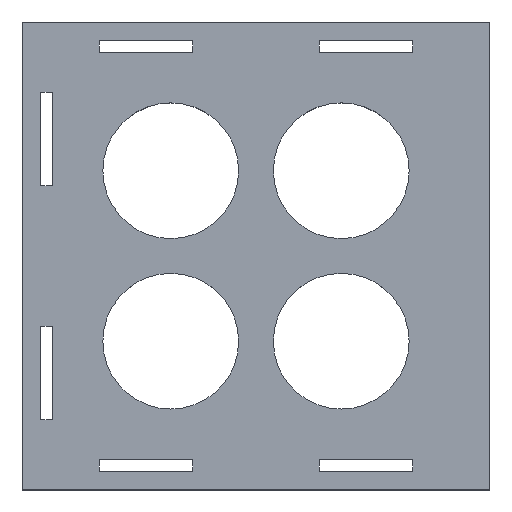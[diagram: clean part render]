
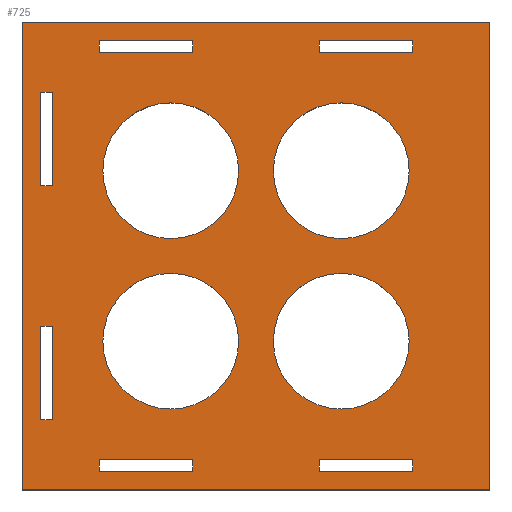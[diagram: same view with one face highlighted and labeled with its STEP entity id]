
A CAD part, top view. The second image highlights one B-rep face of the part: STEP entity #725.
In plain terms, the highlighted planar face has unit normal (0, 0, 1).
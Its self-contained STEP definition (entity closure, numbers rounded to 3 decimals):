
#15=FACE_BOUND('',#114,.T.);
#16=FACE_BOUND('',#115,.T.);
#17=FACE_BOUND('',#116,.T.);
#18=FACE_BOUND('',#117,.T.);
#19=FACE_BOUND('',#118,.T.);
#20=FACE_BOUND('',#119,.T.);
#21=FACE_BOUND('',#120,.T.);
#22=FACE_BOUND('',#121,.T.);
#23=FACE_BOUND('',#122,.T.);
#24=FACE_BOUND('',#123,.T.);
#35=CIRCLE('',#772,14.5);
#37=CIRCLE('',#775,14.5);
#39=CIRCLE('',#778,14.5);
#41=CIRCLE('',#781,14.5);
#79=FACE_OUTER_BOUND('',#113,.T.);
#113=EDGE_LOOP('',(#599,#600,#601,#602));
#114=EDGE_LOOP('',(#603));
#115=EDGE_LOOP('',(#604));
#116=EDGE_LOOP('',(#605));
#117=EDGE_LOOP('',(#606));
#118=EDGE_LOOP('',(#607,#608,#609,#610));
#119=EDGE_LOOP('',(#611,#612,#613,#614));
#120=EDGE_LOOP('',(#615,#616,#617,#618));
#121=EDGE_LOOP('',(#619,#620,#621,#622));
#122=EDGE_LOOP('',(#623,#624,#625,#626));
#123=EDGE_LOOP('',(#627,#628,#629,#630));
#137=LINE('',#971,#225);
#140=LINE('',#977,#228);
#143=LINE('',#983,#231);
#146=LINE('',#987,#234);
#149=LINE('',#995,#237);
#152=LINE('',#1001,#240);
#155=LINE('',#1007,#243);
#158=LINE('',#1011,#246);
#161=LINE('',#1019,#249);
#164=LINE('',#1025,#252);
#167=LINE('',#1031,#255);
#170=LINE('',#1035,#258);
#173=LINE('',#1043,#261);
#176=LINE('',#1049,#264);
#179=LINE('',#1055,#267);
#182=LINE('',#1059,#270);
#185=LINE('',#1067,#273);
#188=LINE('',#1073,#276);
#191=LINE('',#1079,#279);
#194=LINE('',#1083,#282);
#197=LINE('',#1091,#285);
#200=LINE('',#1097,#288);
#203=LINE('',#1103,#291);
#206=LINE('',#1107,#294);
#213=LINE('',#1139,#301);
#216=LINE('',#1145,#304);
#219=LINE('',#1151,#307);
#222=LINE('',#1155,#310);
#225=VECTOR('',#795,10.);
#228=VECTOR('',#800,10.);
#231=VECTOR('',#805,10.);
#234=VECTOR('',#810,10.);
#237=VECTOR('',#815,10.);
#240=VECTOR('',#820,10.);
#243=VECTOR('',#825,10.);
#246=VECTOR('',#830,10.);
#249=VECTOR('',#835,10.);
#252=VECTOR('',#840,10.);
#255=VECTOR('',#845,10.);
#258=VECTOR('',#850,10.);
#261=VECTOR('',#855,10.);
#264=VECTOR('',#860,10.);
#267=VECTOR('',#865,10.);
#270=VECTOR('',#870,10.);
#273=VECTOR('',#875,10.);
#276=VECTOR('',#880,10.);
#279=VECTOR('',#885,10.);
#282=VECTOR('',#890,10.);
#285=VECTOR('',#895,10.);
#288=VECTOR('',#900,10.);
#291=VECTOR('',#905,10.);
#294=VECTOR('',#910,10.);
#301=VECTOR('',#943,10.);
#304=VECTOR('',#948,10.);
#307=VECTOR('',#953,10.);
#310=VECTOR('',#958,10.);
#313=VERTEX_POINT('',#968);
#314=VERTEX_POINT('',#970);
#316=VERTEX_POINT('',#976);
#318=VERTEX_POINT('',#982);
#321=VERTEX_POINT('',#992);
#322=VERTEX_POINT('',#994);
#324=VERTEX_POINT('',#1000);
#326=VERTEX_POINT('',#1006);
#329=VERTEX_POINT('',#1016);
#330=VERTEX_POINT('',#1018);
#332=VERTEX_POINT('',#1024);
#334=VERTEX_POINT('',#1030);
#337=VERTEX_POINT('',#1040);
#338=VERTEX_POINT('',#1042);
#340=VERTEX_POINT('',#1048);
#342=VERTEX_POINT('',#1054);
#345=VERTEX_POINT('',#1064);
#346=VERTEX_POINT('',#1066);
#348=VERTEX_POINT('',#1072);
#350=VERTEX_POINT('',#1078);
#353=VERTEX_POINT('',#1088);
#354=VERTEX_POINT('',#1090);
#356=VERTEX_POINT('',#1096);
#358=VERTEX_POINT('',#1102);
#359=VERTEX_POINT('',#1109);
#361=VERTEX_POINT('',#1115);
#363=VERTEX_POINT('',#1121);
#365=VERTEX_POINT('',#1127);
#369=VERTEX_POINT('',#1136);
#370=VERTEX_POINT('',#1138);
#372=VERTEX_POINT('',#1144);
#374=VERTEX_POINT('',#1150);
#377=EDGE_CURVE('',#314,#313,#137,.T.);
#380=EDGE_CURVE('',#316,#314,#140,.T.);
#383=EDGE_CURVE('',#318,#316,#143,.T.);
#386=EDGE_CURVE('',#313,#318,#146,.T.);
#389=EDGE_CURVE('',#322,#321,#149,.T.);
#392=EDGE_CURVE('',#324,#322,#152,.T.);
#395=EDGE_CURVE('',#326,#324,#155,.T.);
#398=EDGE_CURVE('',#321,#326,#158,.T.);
#401=EDGE_CURVE('',#330,#329,#161,.T.);
#404=EDGE_CURVE('',#332,#330,#164,.T.);
#407=EDGE_CURVE('',#334,#332,#167,.T.);
#410=EDGE_CURVE('',#329,#334,#170,.T.);
#413=EDGE_CURVE('',#338,#337,#173,.T.);
#416=EDGE_CURVE('',#340,#338,#176,.T.);
#419=EDGE_CURVE('',#342,#340,#179,.T.);
#422=EDGE_CURVE('',#337,#342,#182,.T.);
#425=EDGE_CURVE('',#346,#345,#185,.T.);
#428=EDGE_CURVE('',#348,#346,#188,.T.);
#431=EDGE_CURVE('',#350,#348,#191,.T.);
#434=EDGE_CURVE('',#345,#350,#194,.T.);
#437=EDGE_CURVE('',#354,#353,#197,.T.);
#440=EDGE_CURVE('',#356,#354,#200,.T.);
#443=EDGE_CURVE('',#358,#356,#203,.T.);
#446=EDGE_CURVE('',#353,#358,#206,.T.);
#447=EDGE_CURVE('',#359,#359,#35,.T.);
#450=EDGE_CURVE('',#361,#361,#37,.T.);
#453=EDGE_CURVE('',#363,#363,#39,.T.);
#456=EDGE_CURVE('',#365,#365,#41,.T.);
#461=EDGE_CURVE('',#370,#369,#213,.T.);
#464=EDGE_CURVE('',#372,#370,#216,.T.);
#467=EDGE_CURVE('',#374,#372,#219,.T.);
#470=EDGE_CURVE('',#369,#374,#222,.T.);
#599=ORIENTED_EDGE('',*,*,#470,.T.);
#600=ORIENTED_EDGE('',*,*,#467,.T.);
#601=ORIENTED_EDGE('',*,*,#464,.T.);
#602=ORIENTED_EDGE('',*,*,#461,.T.);
#603=ORIENTED_EDGE('',*,*,#456,.T.);
#604=ORIENTED_EDGE('',*,*,#453,.T.);
#605=ORIENTED_EDGE('',*,*,#450,.T.);
#606=ORIENTED_EDGE('',*,*,#447,.T.);
#607=ORIENTED_EDGE('',*,*,#446,.T.);
#608=ORIENTED_EDGE('',*,*,#443,.T.);
#609=ORIENTED_EDGE('',*,*,#440,.T.);
#610=ORIENTED_EDGE('',*,*,#437,.T.);
#611=ORIENTED_EDGE('',*,*,#434,.T.);
#612=ORIENTED_EDGE('',*,*,#431,.T.);
#613=ORIENTED_EDGE('',*,*,#428,.T.);
#614=ORIENTED_EDGE('',*,*,#425,.T.);
#615=ORIENTED_EDGE('',*,*,#422,.T.);
#616=ORIENTED_EDGE('',*,*,#419,.T.);
#617=ORIENTED_EDGE('',*,*,#416,.T.);
#618=ORIENTED_EDGE('',*,*,#413,.T.);
#619=ORIENTED_EDGE('',*,*,#410,.T.);
#620=ORIENTED_EDGE('',*,*,#407,.T.);
#621=ORIENTED_EDGE('',*,*,#404,.T.);
#622=ORIENTED_EDGE('',*,*,#401,.T.);
#623=ORIENTED_EDGE('',*,*,#398,.T.);
#624=ORIENTED_EDGE('',*,*,#395,.T.);
#625=ORIENTED_EDGE('',*,*,#392,.T.);
#626=ORIENTED_EDGE('',*,*,#389,.T.);
#627=ORIENTED_EDGE('',*,*,#386,.T.);
#628=ORIENTED_EDGE('',*,*,#383,.T.);
#629=ORIENTED_EDGE('',*,*,#380,.T.);
#630=ORIENTED_EDGE('',*,*,#377,.T.);
#691=PLANE('',#787);
#725=ADVANCED_FACE('',(#79,#15,#16,#17,#18,#19,#20,#21,#22,#23,#24),#691,
 .T.);
#772=AXIS2_PLACEMENT_3D('',#1110,#913,#914);
#775=AXIS2_PLACEMENT_3D('',#1116,#920,#921);
#778=AXIS2_PLACEMENT_3D('',#1122,#927,#928);
#781=AXIS2_PLACEMENT_3D('',#1128,#934,#935);
#787=AXIS2_PLACEMENT_3D('',#1156,#959,#960);
#795=DIRECTION('',(1.,0.,0.));
#800=DIRECTION('',(0.,1.,0.));
#805=DIRECTION('',(-1.,0.,0.));
#810=DIRECTION('',(0.,-1.,0.));
#815=DIRECTION('',(0.,-1.,0.));
#820=DIRECTION('',(1.,0.,0.));
#825=DIRECTION('',(0.,1.,0.));
#830=DIRECTION('',(-1.,0.,0.));
#835=DIRECTION('',(0.,1.,0.));
#840=DIRECTION('',(-1.,0.,0.));
#845=DIRECTION('',(0.,-1.,0.));
#850=DIRECTION('',(1.,0.,0.));
#855=DIRECTION('',(0.,1.,0.));
#860=DIRECTION('',(-1.,0.,0.));
#865=DIRECTION('',(0.,-1.,0.));
#870=DIRECTION('',(1.,0.,0.));
#875=DIRECTION('',(0.,1.,0.));
#880=DIRECTION('',(-1.,0.,0.));
#885=DIRECTION('',(0.,-1.,0.));
#890=DIRECTION('',(1.,0.,0.));
#895=DIRECTION('',(-1.,0.,0.));
#900=DIRECTION('',(0.,-1.,0.));
#905=DIRECTION('',(1.,0.,0.));
#910=DIRECTION('',(0.,1.,0.));
#913=DIRECTION('center_axis',(0.,0.,-1.));
#914=DIRECTION('ref_axis',(-1.,0.,0.));
#920=DIRECTION('center_axis',(0.,0.,-1.));
#921=DIRECTION('ref_axis',(-1.,0.,0.));
#927=DIRECTION('center_axis',(0.,0.,-1.));
#928=DIRECTION('ref_axis',(-1.,0.,0.));
#934=DIRECTION('center_axis',(0.,0.,-1.));
#935=DIRECTION('ref_axis',(-1.,0.,0.));
#943=DIRECTION('',(-1.,0.,0.));
#948=DIRECTION('',(0.,1.,0.));
#953=DIRECTION('',(1.,0.,0.));
#958=DIRECTION('',(0.,-1.,0.));
#959=DIRECTION('center_axis',(0.,0.,1.));
#960=DIRECTION('ref_axis',(1.,0.,0.));
#968=CARTESIAN_POINT('',(48.5,0.,2.5));
#970=CARTESIAN_POINT('',(28.5,0.,2.5));
#971=CARTESIAN_POINT('',(28.5,0.,2.5));
#976=CARTESIAN_POINT('',(28.5,-2.5,2.5));
#977=CARTESIAN_POINT('',(28.5,-2.5,2.5));
#982=CARTESIAN_POINT('',(48.5,-2.5,2.5));
#983=CARTESIAN_POINT('',(48.5,-2.5,2.5));
#987=CARTESIAN_POINT('',(48.5,0.,2.5));
#992=CARTESIAN_POINT('',(1.5,-2.5,2.5));
#994=CARTESIAN_POINT('',(1.5,0.,2.5));
#995=CARTESIAN_POINT('',(1.5,0.,2.5));
#1000=CARTESIAN_POINT('',(-18.5,0.,2.5));
#1001=CARTESIAN_POINT('',(-18.5,0.,2.5));
#1006=CARTESIAN_POINT('',(-18.5,-2.5,2.5));
#1007=CARTESIAN_POINT('',(-18.5,-2.5,2.5));
#1011=CARTESIAN_POINT('',(1.5,-2.5,2.5));
#1016=CARTESIAN_POINT('',(-31.,-11.,2.5));
#1018=CARTESIAN_POINT('',(-31.,-31.,2.5));
#1019=CARTESIAN_POINT('',(-31.,-31.,2.5));
#1024=CARTESIAN_POINT('',(-28.5,-31.,2.5));
#1025=CARTESIAN_POINT('',(-28.5,-31.,2.5));
#1030=CARTESIAN_POINT('',(-28.5,-11.,2.5));
#1031=CARTESIAN_POINT('',(-28.5,-11.,2.5));
#1035=CARTESIAN_POINT('',(-31.,-11.,2.5));
#1040=CARTESIAN_POINT('',(-31.,-61.,2.5));
#1042=CARTESIAN_POINT('',(-31.,-81.,2.5));
#1043=CARTESIAN_POINT('',(-31.,-81.,2.5));
#1048=CARTESIAN_POINT('',(-28.5,-81.,2.5));
#1049=CARTESIAN_POINT('',(-28.5,-81.,2.5));
#1054=CARTESIAN_POINT('',(-28.5,-61.,2.5));
#1055=CARTESIAN_POINT('',(-28.5,-61.,2.5));
#1059=CARTESIAN_POINT('',(-31.,-61.,2.5));
#1064=CARTESIAN_POINT('',(28.5,-89.5,2.5));
#1066=CARTESIAN_POINT('',(28.5,-92.,2.5));
#1067=CARTESIAN_POINT('',(28.5,-92.,2.5));
#1072=CARTESIAN_POINT('',(48.5,-92.,2.5));
#1073=CARTESIAN_POINT('',(48.5,-92.,2.5));
#1078=CARTESIAN_POINT('',(48.5,-89.5,2.5));
#1079=CARTESIAN_POINT('',(48.5,-89.5,2.5));
#1083=CARTESIAN_POINT('',(28.5,-89.5,2.5));
#1088=CARTESIAN_POINT('',(-18.5,-92.,2.5));
#1090=CARTESIAN_POINT('',(1.5,-92.,2.5));
#1091=CARTESIAN_POINT('',(1.5,-92.,2.5));
#1096=CARTESIAN_POINT('',(1.5,-89.5,2.5));
#1097=CARTESIAN_POINT('',(1.5,-89.5,2.5));
#1102=CARTESIAN_POINT('',(-18.5,-89.5,2.5));
#1103=CARTESIAN_POINT('',(-18.5,-89.5,2.5));
#1107=CARTESIAN_POINT('',(-18.5,-92.,2.5));
#1109=CARTESIAN_POINT('',(47.714,-64.214,2.5));
#1110=CARTESIAN_POINT('Origin',(33.214,-64.214,2.5));
#1115=CARTESIAN_POINT('',(11.286,-64.214,2.5));
#1116=CARTESIAN_POINT('Origin',(-3.214,-64.214,2.5));
#1121=CARTESIAN_POINT('',(11.286,-27.786,2.5));
#1122=CARTESIAN_POINT('Origin',(-3.214,-27.786,2.5));
#1127=CARTESIAN_POINT('',(47.714,-27.786,2.5));
#1128=CARTESIAN_POINT('Origin',(33.214,-27.786,2.5));
#1136=CARTESIAN_POINT('',(-35.,4.,2.5));
#1138=CARTESIAN_POINT('',(65.,4.,2.5));
#1139=CARTESIAN_POINT('',(65.,4.,2.5));
#1144=CARTESIAN_POINT('',(65.,-96.,2.5));
#1145=CARTESIAN_POINT('',(65.,-96.,2.5));
#1150=CARTESIAN_POINT('',(-35.,-96.,2.5));
#1151=CARTESIAN_POINT('',(-35.,-96.,2.5));
#1155=CARTESIAN_POINT('',(-35.,4.,2.5));
#1156=CARTESIAN_POINT('Origin',(15.,-46.,2.5));
